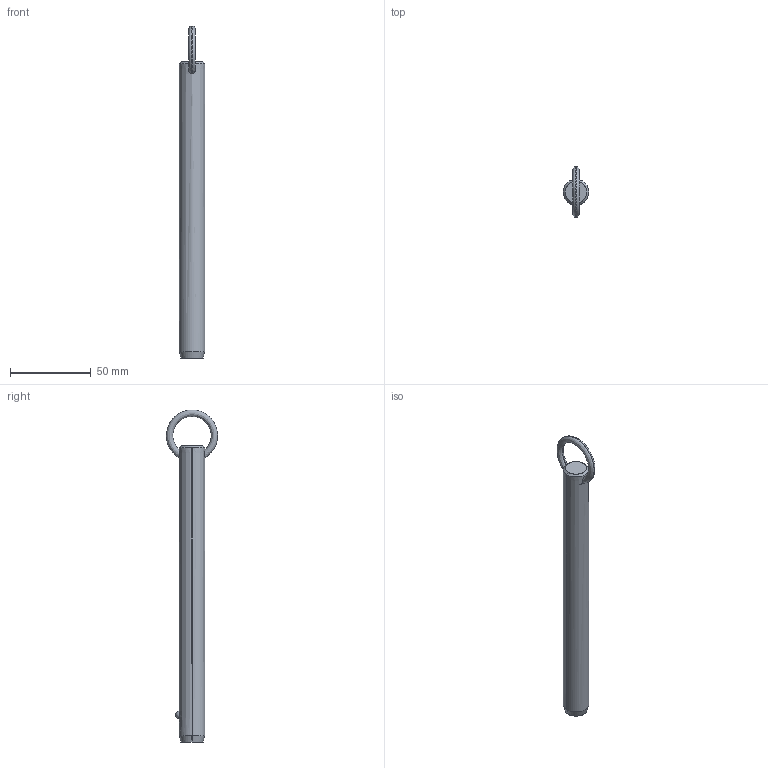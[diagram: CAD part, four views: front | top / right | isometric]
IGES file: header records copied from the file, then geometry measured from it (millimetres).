
Start section: SolidWorks IGES file using analytic representation for surfaces
Global section: file name: C:\Users\liam_\OneDrive\Documents\WORK\Work for WixRoyd\Job Files\J-00019 - Matt Davis CAD Checking\04. CAD Drawings\automotion20190605\P1250.2_v2\P1250.2_v2_20190729_IGES\P1250.062-610.igs; native system: SolidWorks 2017; preprocessor: SolidWorks 2017; author: liam_; date: 190729.234150; units: millimetre
Bounding box: 15.8 x 31.66 x 205.6 mm (x, y, z)
Surface area: 10277.3 mm2 (no closed solid volume)
Topology: 0 solids, 0 shells, 12 faces, 292 edges, 290 vertices
Faces by surface type: revolution 8, bspline 4
